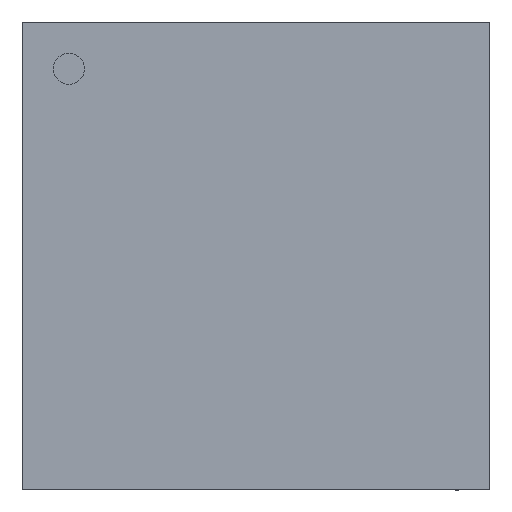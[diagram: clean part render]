
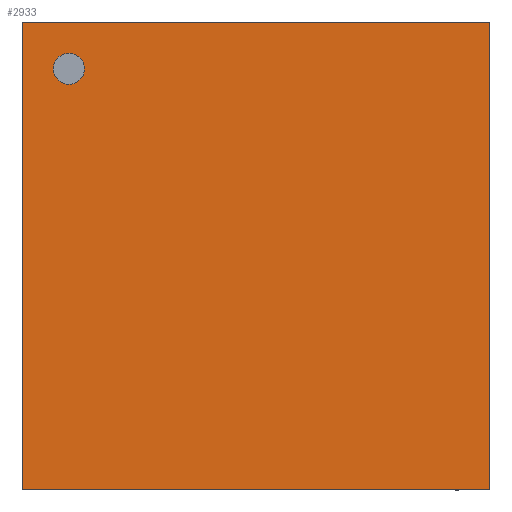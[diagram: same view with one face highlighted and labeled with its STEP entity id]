
A CAD part, top view. The second image highlights one B-rep face of the part: STEP entity #2933.
In plain terms, the highlighted planar face has unit normal (0, 0, 1).
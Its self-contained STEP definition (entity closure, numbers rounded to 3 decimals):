
#102 = VERTEX_POINT ( 'NONE', #1031 ) ;
#127 = VERTEX_POINT ( 'NONE', #1106 ) ;
#280 = DIRECTION ( 'NONE',  ( 0., 1., 0. ) ) ;
#291 = FACE_OUTER_BOUND ( 'NONE', #8452, .T. ) ;
#323 = FACE_BOUND ( 'NONE', #9563, .T. ) ;
#469 = EDGE_CURVE ( 'NONE', #10155, #478, #2495, .T. ) ;
#478 = VERTEX_POINT ( 'NONE', #10063 ) ;
#797 = VERTEX_POINT ( 'NONE', #5782 ) ;
#912 = CARTESIAN_POINT ( 'NONE',  ( -1.5, 1.5, 0.7 ) ) ;
#1031 = CARTESIAN_POINT ( 'NONE',  ( -1.2, 1.1, 0.7 ) ) ;
#1106 = CARTESIAN_POINT ( 'NONE',  ( -1.5, 1.5, 0.7 ) ) ;
#1419 = ORIENTED_EDGE ( 'NONE', *, *, #3251, .F. ) ;
#2339 = ORIENTED_EDGE ( 'NONE', *, *, #10864, .T. ) ;
#2495 = LINE ( 'NONE', #9708, #2615 ) ;
#2582 = EDGE_CURVE ( 'NONE', #127, #10155, #7958, .T. ) ;
#2611 = EDGE_CURVE ( 'NONE', #102, #6484, #5170, .T. ) ;
#2615 = VECTOR ( 'NONE', #7094, 1000. ) ;
#2739 = ORIENTED_EDGE ( 'NONE', *, *, #2611, .F. ) ;
#2933 = ADVANCED_FACE ( 'NONE', ( #323, #291 ), #9100, .F. ) ;
#3064 = CARTESIAN_POINT ( 'NONE',  ( -1.2, 1.3, 0.7 ) ) ;
#3251 = EDGE_CURVE ( 'NONE', #6484, #102, #3254, .T. ) ;
#3254 = CIRCLE ( 'NONE', #3298, 0.1 ) ;
#3298 = AXIS2_PLACEMENT_3D ( 'NONE', #6462, #10980, #7726 ) ;
#4147 = CARTESIAN_POINT ( 'NONE',  ( -1.5, 1.5, 0.7 ) ) ;
#4678 = AXIS2_PLACEMENT_3D ( 'NONE', #11216, #7505, #280 ) ;
#5170 = CIRCLE ( 'NONE', #9662, 0.1 ) ;
#5229 = LINE ( 'NONE', #912, #9635 ) ;
#5782 = CARTESIAN_POINT ( 'NONE',  ( 1.5, 1.5, 0.7 ) ) ;
#5799 = CARTESIAN_POINT ( 'NONE',  ( 1.5, 1.5, 0.7 ) ) ;
#5884 = EDGE_CURVE ( 'NONE', #478, #797, #8488, .T. ) ;
#6131 = DIRECTION ( 'NONE',  ( -1., 0., 0. ) ) ;
#6462 = CARTESIAN_POINT ( 'NONE',  ( -1.2, 1.2, 0.7 ) ) ;
#6484 = VERTEX_POINT ( 'NONE', #3064 ) ;
#6757 = DIRECTION ( 'NONE',  ( 0., 0., 1. ) ) ;
#7069 = ORIENTED_EDGE ( 'NONE', *, *, #5884, .T. ) ;
#7094 = DIRECTION ( 'NONE',  ( 1., 0., 0. ) ) ;
#7223 = VECTOR ( 'NONE', #7315, 1000. ) ;
#7315 = DIRECTION ( 'NONE',  ( 0., -1., 0. ) ) ;
#7505 = DIRECTION ( 'NONE',  ( 0., 0., -1. ) ) ;
#7726 = DIRECTION ( 'NONE',  ( 0., -1., 0. ) ) ;
#7958 = LINE ( 'NONE', #4147, #7223 ) ;
#8452 = EDGE_LOOP ( 'NONE', ( #11169, #7069, #2339, #9881 ) ) ;
#8488 = LINE ( 'NONE', #5799, #8834 ) ;
#8834 = VECTOR ( 'NONE', #11192, 1000. ) ;
#9079 = DIRECTION ( 'NONE',  ( 0., -1., 0. ) ) ;
#9100 = PLANE ( 'NONE',  #4678 ) ;
#9118 = CARTESIAN_POINT ( 'NONE',  ( -1.2, 1.2, 0.7 ) ) ;
#9563 = EDGE_LOOP ( 'NONE', ( #2739, #1419 ) ) ;
#9635 = VECTOR ( 'NONE', #6131, 1000. ) ;
#9662 = AXIS2_PLACEMENT_3D ( 'NONE', #9118, #6757, #9079 ) ;
#9708 = CARTESIAN_POINT ( 'NONE',  ( -1.5, -1.5, 0.7 ) ) ;
#9881 = ORIENTED_EDGE ( 'NONE', *, *, #2582, .T. ) ;
#10063 = CARTESIAN_POINT ( 'NONE',  ( 1.5, -1.5, 0.7 ) ) ;
#10155 = VERTEX_POINT ( 'NONE', #10983 ) ;
#10864 = EDGE_CURVE ( 'NONE', #797, #127, #5229, .T. ) ;
#10980 = DIRECTION ( 'NONE',  ( 0., 0., 1. ) ) ;
#10983 = CARTESIAN_POINT ( 'NONE',  ( -1.5, -1.5, 0.7 ) ) ;
#11169 = ORIENTED_EDGE ( 'NONE', *, *, #469, .T. ) ;
#11192 = DIRECTION ( 'NONE',  ( 0., 1., 0. ) ) ;
#11216 = CARTESIAN_POINT ( 'NONE',  ( 0., 0., 0.7 ) ) ;
